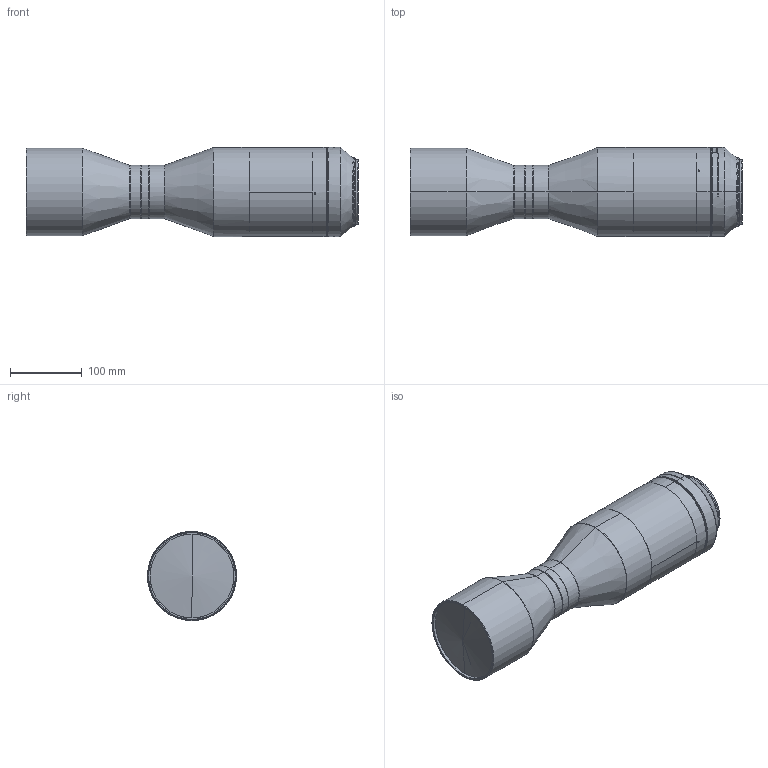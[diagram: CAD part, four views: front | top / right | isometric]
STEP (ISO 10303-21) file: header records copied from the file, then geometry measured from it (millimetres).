
FILE_DESCRIPTION (( 'STEP AP203' ), '1' );
FILE_NAME ('DTCA24K-92-M90-AL.STEP', '2019-11-13T07:22:47', ( 'Windows 蚚誧' ), ( '' ), 'SwSTEP 2.0', 'SolidWorks 2017', '' );
FILE_SCHEMA (( 'CONFIG_CONTROL_DESIGN' ));
Length unit declared in the file: millimetre
Products named in the file (1): DTCA24K-92-M90-AL
Bounding box: 462.46 x 124 x 124 mm (x, y, z)
Volume: 4462391.7 mm3; surface area: 191062.2 mm2
Topology: 2 solids, 2 shells, 123 faces, 289 edges, 180 vertices
Faces by surface type: cylinder 50, cone 40, plane 21, bspline 12
Entity records: 4250 total; most frequent: CARTESIAN_POINT 1359, DIRECTION 627, ORIENTED_EDGE 570, EDGE_CURVE 285, AXIS2_PLACEMENT_3D 262, VERTEX_POINT 180, CIRCLE 150, EDGE_LOOP 137
